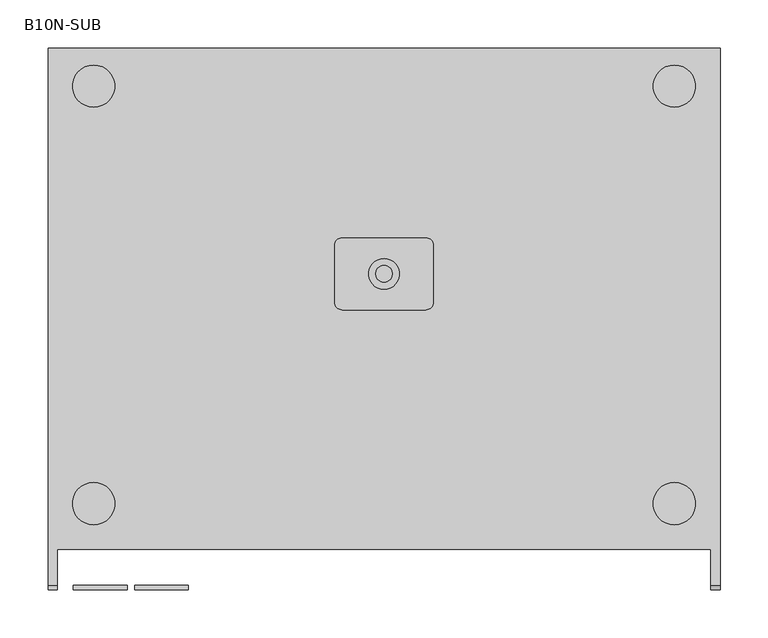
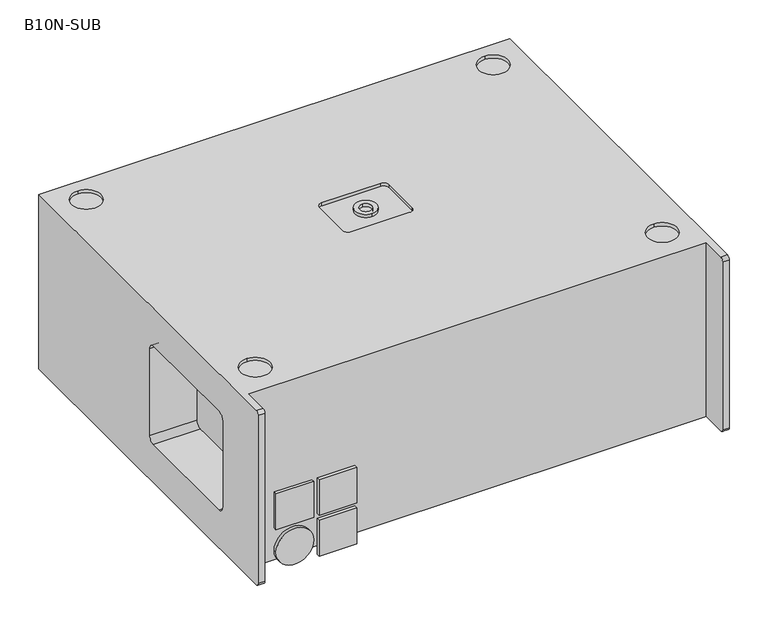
"""IFC4 building model written with IfcOpenShell, lengths in millimetres: proxy geometry, d&b B10N-SUB : B10N-SUB."""

from ifc_helpers import new_model, si_unit, point, frame, frame_2d, origin, origin_with_axes, place, context, project, spatial, polyline, circle_curve, trimmed, segment, composite_curve, outline, extrude, source, transform, mapped, element, save
from ifc_brep_helpers import plane_surface, cylinder_surface, revolved_surface, advanced_brep


def b10n_sub_f161659a(model_context):
    return source(origin(), model_context, "Body", "SolidModel", [
        advanced_brep(
        [(2852.5, 504.2505973, 279.0), (2152.5, 504.2505973, 279.0), (2152.5, -55.7494027, 279.0), (2162.3, -55.7494027, 279.0), (2162.3, -18.2494027, 279.0), (2842.7, -18.2494027, 279.0), (2842.7, -55.7494027, 279.0), (2852.5, -55.7494027, 279.0), (2459.0, 306.2505973, 279.0), (2546.0, 306.2505973, 279.0), (2554.0, 298.2505973, 279.0), (2554.0, 239.2505973, 279.0), (2546.0, 231.2505973, 279.0), (2459.0, 231.2505973, 279.0), (2451.0, 239.2505973, 279.0), (2451.0, 298.2505973, 279.0), (2200.0, 7.2505973, 279.0), (2200.0, 51.2505973, 279.0), (2200.0, 442.4754449, 279.0), (2200.0, 486.4754449, 279.0), (2805.0, 7.2505973, 279.0), (2805.0, 51.2505973, 279.0), (2805.0, 442.4754449, 279.0), (2805.0, 486.4754449, 279.0), (2782.5, 218.2505973, 210.25), (2782.5, 209.2505973, 219.25), (2782.5, 40.2505973, 219.25), (2782.5, 31.2505973, 210.25), (2782.5, 31.2505973, 73.75), (2782.5, 40.2505973, 64.75), (2782.5, 209.2505973, 64.75), (2782.5, 218.2505973, 73.75), (2222.5, 209.2505973, 219.25), (2222.5, 218.2505973, 210.25), (2222.5, 218.2505973, 73.75), (2222.5, 209.2505973, 64.75), (2222.5, 40.2505973, 64.75), (2222.5, 31.2505973, 73.75), (2222.5, 31.2505973, 210.25), (2222.5, 40.2505973, 219.25), (2152.5, 504.2505973, 5.0), (2152.5, -55.7494027, 5.0), (2152.5, -60.7494027, 10.0), (2152.5, -60.7494027, 274.0), (2152.5, 209.2505973, 219.25), (2152.5, 40.2505973, 219.25), (2152.5, 31.2505973, 210.25), (2152.5, 31.2505973, 73.75), (2152.5, 40.2505973, 64.75), (2152.5, 209.2505973, 64.75), (2152.5, 218.2505973, 73.75), (2152.5, 218.2505973, 210.25), (2162.3, -18.2494027, 5.0), (2842.7, -18.2494027, 5.0), (2162.3, -60.7494027, 10.0), (2162.3, -60.7494027, 274.0), (2725.8470134, 499.2505973, 191.7), (2725.8470134, 499.2505973, 92.3), (2715.3470134, 499.2505973, 81.8), (2672.3470134, 499.2505973, 81.8), (2661.8470134, 499.2505973, 92.3), (2661.8470134, 499.2505973, 191.7), (2672.3470134, 499.2505973, 202.2), (2715.3470134, 499.2505973, 202.2), (2162.3, -55.7494027, 5.0), (2852.5, 504.2505973, 5.0), (2852.5, -55.7494027, 5.0), (2842.7, -55.7494027, 5.0), (2652.6470134, 504.2505973, 190.6470095), (2640.6470134, 504.2505973, 202.6470095), (2521.653425, 504.2505973, 202.6470095), (2506.426988, 504.2505973, 192.1470095), (2426.573012, 504.2505973, 192.1470095), (2411.346575, 504.2505973, 202.6470095), (2292.3529944, 504.2505973, 202.6470095), (2280.3529944, 504.2505973, 190.6470095), (2280.3529944, 504.2505973, 93.3529905), (2292.3529944, 504.2505973, 81.3529905), (2411.346575, 504.2505973, 81.3529905), (2426.573012, 504.2505973, 91.8529905), (2506.426988, 504.2505973, 91.8529905), (2521.653425, 504.2505973, 81.3529905), (2640.6470134, 504.2505973, 81.3529905), (2652.6470134, 504.2505973, 93.3529905), (2725.8470134, 504.2505973, 92.3), (2725.8470134, 504.2505973, 191.7), (2715.3470134, 504.2505973, 202.2), (2672.3470134, 504.2505973, 202.2), (2661.8470134, 504.2505973, 191.7), (2661.8470134, 504.2505973, 92.3), (2672.3470134, 504.2505973, 81.8), (2715.3470134, 504.2505973, 81.8), (2546.0, 306.2505973, 274.0), (2459.0, 306.2505973, 274.0), (2451.0, 298.2505973, 274.0), (2451.0, 239.2505973, 274.0), (2459.0, 231.2505973, 274.0), (2546.0, 231.2505973, 274.0), (2554.0, 239.2505973, 274.0), (2554.0, 298.2505973, 274.0), (2200.0, 51.2505973, 274.0), (2200.0, 7.2505973, 274.0), (2200.0, 486.4754449, 274.0), (2200.0, 442.4754449, 274.0), (2842.7, -60.7494027, 10.0), (2842.7, -60.7494027, 274.0), (2852.5, -60.7494027, 274.0), (2852.5, -60.7494027, 10.0), (2852.5, 209.2505973, 219.25), (2852.5, 218.2505973, 210.25), (2852.5, 218.2505973, 73.75), (2852.5, 209.2505973, 64.75), (2852.5, 40.2505973, 64.75), (2852.5, 31.2505973, 73.75), (2852.5, 31.2505973, 210.25), (2852.5, 40.2505973, 219.25), (2805.0, 7.2505973, 274.0), (2805.0, 51.2505973, 274.0), (2805.0, 442.4754449, 274.0), (2805.0, 486.4754449, 274.0), (2290.3529944, 449.0471889, 185.5005283), (2342.6469289, 449.0471889, 185.5005283), (2342.6469289, 449.0471889, 98.5432161), (2290.3529944, 449.0471889, 98.5432161), (2290.3529944, 499.2505973, 185.5005283), (2360.4303168, 499.2505973, 185.5005283), (2360.4303168, 499.2505973, 98.5432161), (2290.3529944, 499.2505973, 98.5432161), (2640.6470134, 499.2505973, 202.6470095), (2652.6470134, 499.2505973, 190.6470095), (2652.6470134, 499.2505973, 93.3529905), (2640.6470134, 499.2505973, 81.3529905), (2521.653425, 499.2505973, 81.3529905), (2506.426988, 499.2505973, 91.8529905), (2426.573012, 499.2505973, 91.8529905), (2411.346575, 499.2505973, 81.3529905), (2292.3529944, 499.2505973, 81.3529905), (2280.3529944, 499.2505973, 93.3529905), (2280.3529944, 499.2505973, 190.6470095), (2292.3529944, 499.2505973, 202.6470095), (2411.346575, 499.2505973, 202.6470095), (2426.573012, 499.2505973, 192.1470095), (2506.426988, 499.2505973, 192.1470095), (2521.653425, 499.2505973, 202.6470095), (2641.4562346, 499.2505973, 185.5005283), (2544.51192, 499.2505973, 185.5005283), (2544.51192, 499.2505973, 98.5432161), (2641.4562346, 499.2505973, 98.5432161), (2629.5000039, 449.0471889, 185.5005283), (2629.5000039, 449.0471889, 98.5432161), (2565.212914, 449.0471889, 98.5432161), (2565.212914, 449.0471889, 185.5005283)],
        [
            (0, 1),
            (1, 2),
            (2, 3),
            (3, 4),
            (4, 5),
            (5, 6),
            (6, 7),
            (7, 0),
            (8, 9),
            (9, 10, circle_curve(frame((2546.0, 298.2505973, 279.0), z_axis=(0.0, 0.0, -1.0), x_axis=(0.0, 1.0, 0.0)), 8.0)),
            (10, 11),
            (11, 12, circle_curve(frame((2546.0, 239.2505973, 279.0), z_axis=(0.0, 0.0, -1.0), x_axis=(0.0, 1.0, 0.0)), 8.0)),
            (12, 13),
            (13, 14, circle_curve(frame((2459.0, 239.2505973, 279.0), z_axis=(0.0, 0.0, -1.0), x_axis=(0.0, 1.0, 0.0)), 8.0)),
            (14, 15),
            (15, 8, circle_curve(frame((2459.0, 298.2505973, 279.0), z_axis=(0.0, 0.0, -1.0), x_axis=(0.0, 1.0, 0.0)), 8.0)),
            (16, 17, circle_curve(frame((2200.0, 29.2505973, 279.0), z_axis=(0.0, 0.0, -1.0), x_axis=(0.0, 1.0, 0.0)), 22.0)),
            (17, 16, circle_curve(frame((2200.0, 29.2505973, 279.0), z_axis=(0.0, 0.0, -1.0), x_axis=(0.0, 1.0, 0.0)), 22.0)),
            (18, 19, circle_curve(frame((2200.0, 464.4754449, 279.0), z_axis=(0.0, 0.0, -1.0), x_axis=(0.0, 1.0, 0.0)), 22.0)),
            (19, 18, circle_curve(frame((2200.0, 464.4754449, 279.0), z_axis=(0.0, 0.0, -1.0), x_axis=(0.0, 1.0, 0.0)), 22.0)),
            (20, 21, circle_curve(frame((2805.0, 29.2505973, 279.0), z_axis=(0.0, 0.0, -1.0), x_axis=(0.0, 1.0, 0.0)), 22.0)),
            (21, 20, circle_curve(frame((2805.0, 29.2505973, 279.0), z_axis=(0.0, 0.0, -1.0), x_axis=(0.0, 1.0, 0.0)), 22.0)),
            (22, 23, circle_curve(frame((2805.0, 464.4754449, 279.0), z_axis=(0.0, 0.0, -1.0), x_axis=(0.0, 1.0, 0.0)), 22.0)),
            (23, 22, circle_curve(frame((2805.0, 464.4754449, 279.0), z_axis=(0.0, 0.0, -1.0), x_axis=(0.0, 1.0, 0.0)), 22.0)),
            (24, 25, circle_curve(frame((2782.5, 209.2505973, 210.25), z_axis=(1.0, 0.0, 0.0), x_axis=(0.0, 0.0, 1.0)), 9.0)),
            (25, 26),
            (26, 27, circle_curve(frame((2782.5, 40.2505973, 210.25), z_axis=(1.0, 0.0, 0.0), x_axis=(0.0, 0.0, 1.0)), 9.0)),
            (27, 28),
            (28, 29, circle_curve(frame((2782.5, 40.2505973, 73.75), z_axis=(1.0, 0.0, 0.0), x_axis=(0.0, 0.0, 1.0)), 9.0)),
            (29, 30),
            (30, 31, circle_curve(frame((2782.5, 209.2505973, 73.75), z_axis=(1.0, 0.0, 0.0), x_axis=(0.0, 0.0, 1.0)), 9.0)),
            (31, 24),
            (32, 33, circle_curve(frame((2222.5, 209.2505973, 210.25), z_axis=(-1.0, 0.0, 0.0), x_axis=(0.0, 0.0, 1.0)), 9.0)),
            (33, 34),
            (34, 35, circle_curve(frame((2222.5, 209.2505973, 73.75), z_axis=(-1.0, 0.0, 0.0), x_axis=(0.0, 0.0, 1.0)), 9.0)),
            (35, 36),
            (36, 37, circle_curve(frame((2222.5, 40.2505973, 73.75), z_axis=(-1.0, 0.0, 0.0), x_axis=(0.0, 0.0, 1.0)), 9.0)),
            (37, 38),
            (38, 39, circle_curve(frame((2222.5, 40.2505973, 210.25), z_axis=(-1.0, 0.0, 0.0), x_axis=(0.0, 0.0, 1.0)), 9.0)),
            (39, 32),
            (1, 40),
            (40, 41),
            (41, 42, circle_curve(frame((2152.5, -55.7494027, 10.0), z_axis=(-1.0, 0.0, 0.0), x_axis=(0.0, 0.0, 1.0)), 5.0)),
            (42, 43),
            (43, 2, circle_curve(frame((2152.5, -55.7494027, 274.0), z_axis=(-1.0, 0.0, 0.0), x_axis=(0.0, 0.0, 1.0)), 5.0)),
            (44, 45),
            (45, 46, circle_curve(frame((2152.5, 40.2505973, 210.25), z_axis=(1.0, 0.0, 0.0), x_axis=(0.0, 0.0, 1.0)), 9.0)),
            (46, 47),
            (47, 48, circle_curve(frame((2152.5, 40.2505973, 73.75), z_axis=(1.0, 0.0, 0.0), x_axis=(0.0, 0.0, 1.0)), 9.0)),
            (48, 49),
            (49, 50, circle_curve(frame((2152.5, 209.2505973, 73.75), z_axis=(1.0, 0.0, 0.0), x_axis=(0.0, 0.0, 1.0)), 9.0)),
            (50, 51),
            (51, 44, circle_curve(frame((2152.5, 209.2505973, 210.25), z_axis=(1.0, 0.0, 0.0), x_axis=(0.0, 0.0, 1.0)), 9.0)),
            (4, 52),
            (52, 53),
            (53, 5),
            (51, 33),
            (32, 44),
            (50, 34),
            (49, 35),
            (48, 36),
            (47, 37),
            (46, 38),
            (45, 39),
            (42, 54),
            (54, 55),
            (55, 43),
            (56, 57),
            (57, 58, circle_curve(frame((2715.3470134, 499.2505973, 92.3), z_axis=(0.0, 1.0, 0.0), x_axis=(-1.0, 0.0, 0.0)), 10.5)),
            (58, 59),
            (59, 60, circle_curve(frame((2672.3470134, 499.2505973, 92.3), z_axis=(0.0, 1.0, 0.0), x_axis=(-1.0, 0.0, 0.0)), 10.5)),
            (60, 61),
            (61, 62, circle_curve(frame((2672.3470134, 499.2505973, 191.7), z_axis=(0.0, 1.0, 0.0), x_axis=(-1.0, 0.0, 0.0)), 10.5)),
            (62, 63),
            (63, 56, circle_curve(frame((2715.3470134, 499.2505973, 191.7), z_axis=(0.0, 1.0, 0.0), x_axis=(-1.0, 0.0, 0.0)), 10.5)),
            (52, 64),
            (64, 41),
            (40, 65),
            (65, 66),
            (66, 67),
            (67, 53),
            (0, 65),
            (68, 69, circle_curve(frame((2640.6470134, 504.2505973, 190.6470095), z_axis=(0.0, -1.0, 0.0), x_axis=(-1.0, 0.0, 0.0)), 12.0)),
            (69, 70),
            (70, 71),
            (71, 72),
            (72, 73),
            (73, 74),
            (74, 75, circle_curve(frame((2292.3529944, 504.2505973, 190.6470095), z_axis=(0.0, -1.0, 0.0), x_axis=(-1.0, 0.0, 0.0)), 12.0)),
            (75, 76),
            (76, 77, circle_curve(frame((2292.3529944, 504.2505973, 93.3529905), z_axis=(0.0, -1.0, 0.0), x_axis=(-1.0, 0.0, 0.0)), 12.0)),
            (77, 78),
            (78, 79),
            (79, 80),
            (80, 81),
            (81, 82),
            (82, 83, circle_curve(frame((2640.6470134, 504.2505973, 93.3529905), z_axis=(0.0, -1.0, 0.0), x_axis=(-1.0, 0.0, 0.0)), 12.0)),
            (83, 68),
            (84, 85),
            (85, 86, circle_curve(frame((2715.3470134, 504.2505973, 191.7), z_axis=(0.0, -1.0, 0.0), x_axis=(-1.0, 0.0, 0.0)), 10.5)),
            (86, 87),
            (87, 88, circle_curve(frame((2672.3470134, 504.2505973, 191.7), z_axis=(0.0, -1.0, 0.0), x_axis=(-1.0, 0.0, 0.0)), 10.5)),
            (88, 89),
            (89, 90, circle_curve(frame((2672.3470134, 504.2505973, 92.3), z_axis=(0.0, -1.0, 0.0), x_axis=(-1.0, 0.0, 0.0)), 10.5)),
            (90, 91),
            (91, 84, circle_curve(frame((2715.3470134, 504.2505973, 92.3), z_axis=(0.0, -1.0, 0.0), x_axis=(-1.0, 0.0, 0.0)), 10.5)),
            (92, 93),
            (93, 94, circle_curve(frame((2459.0, 298.2505973, 274.0), z_axis=(0.0, 0.0, 1.0), x_axis=(0.0, 1.0, 0.0)), 8.0)),
            (94, 95),
            (95, 96, circle_curve(frame((2459.0, 239.2505973, 274.0), z_axis=(0.0, 0.0, 1.0), x_axis=(0.0, 1.0, 0.0)), 8.0)),
            (96, 97),
            (97, 98, circle_curve(frame((2546.0, 239.2505973, 274.0), z_axis=(0.0, 0.0, 1.0), x_axis=(0.0, 1.0, 0.0)), 8.0)),
            (98, 99),
            (99, 92, circle_curve(frame((2546.0, 298.2505973, 274.0), z_axis=(0.0, 0.0, 1.0), x_axis=(0.0, 1.0, 0.0)), 8.0)),
            (100, 101, circle_curve(frame((2200.0, 29.2505973, 274.0), z_axis=(0.0, 0.0, 1.0), x_axis=(0.0, 1.0, 0.0)), 22.0)),
            (101, 100, circle_curve(frame((2200.0, 29.2505973, 274.0), z_axis=(0.0, 0.0, 1.0), x_axis=(0.0, 1.0, 0.0)), 22.0)),
            (102, 103, circle_curve(frame((2200.0, 464.4754449, 274.0), z_axis=(0.0, 0.0, 1.0), x_axis=(0.0, 1.0, 0.0)), 22.0)),
            (103, 102, circle_curve(frame((2200.0, 464.4754449, 274.0), z_axis=(0.0, 0.0, 1.0), x_axis=(0.0, 1.0, 0.0)), 22.0)),
            (8, 93),
            (92, 9),
            (99, 10),
            (98, 11),
            (97, 12),
            (96, 13),
            (95, 14),
            (94, 15),
            (16, 101),
            (100, 17),
            (18, 103),
            (102, 19),
            (3, 55, circle_curve(frame((2162.3, -55.7494027, 274.0), z_axis=(1.0, 0.0, 0.0), x_axis=(0.0, 0.0, 1.0)), 5.0)),
            (54, 64, circle_curve(frame((2162.3, -55.7494027, 10.0), z_axis=(1.0, 0.0, 0.0), x_axis=(0.0, 0.0, 1.0)), 5.0)),
            (67, 104, circle_curve(frame((2842.7, -55.7494027, 10.0), z_axis=(-1.0, 0.0, 0.0), x_axis=(0.0, 0.0, 1.0)), 5.0)),
            (104, 105),
            (105, 6, circle_curve(frame((2842.7, -55.7494027, 274.0), z_axis=(-1.0, 0.0, 0.0), x_axis=(0.0, 0.0, 1.0)), 5.0)),
            (7, 106, circle_curve(frame((2852.5, -55.7494027, 274.0), z_axis=(1.0, 0.0, 0.0), x_axis=(0.0, 0.0, 1.0)), 5.0)),
            (106, 107),
            (107, 66, circle_curve(frame((2852.5, -55.7494027, 10.0), z_axis=(1.0, 0.0, 0.0), x_axis=(0.0, 0.0, 1.0)), 5.0)),
            (108, 109, circle_curve(frame((2852.5, 209.2505973, 210.25), z_axis=(-1.0, 0.0, 0.0), x_axis=(0.0, 0.0, 1.0)), 9.0)),
            (109, 110),
            (110, 111, circle_curve(frame((2852.5, 209.2505973, 73.75), z_axis=(-1.0, 0.0, 0.0), x_axis=(0.0, 0.0, 1.0)), 9.0)),
            (111, 112),
            (112, 113, circle_curve(frame((2852.5, 40.2505973, 73.75), z_axis=(-1.0, 0.0, 0.0), x_axis=(0.0, 0.0, 1.0)), 9.0)),
            (113, 114),
            (114, 115, circle_curve(frame((2852.5, 40.2505973, 210.25), z_axis=(-1.0, 0.0, 0.0), x_axis=(0.0, 0.0, 1.0)), 9.0)),
            (115, 108),
            (20, 116),
            (116, 117, circle_curve(frame((2805.0, 29.2505973, 274.0), z_axis=(0.0, 0.0, -1.0), x_axis=(0.0, 1.0, 0.0)), 22.0)),
            (117, 21),
            (117, 116, circle_curve(frame((2805.0, 29.2505973, 274.0), z_axis=(0.0, 0.0, -1.0), x_axis=(0.0, 1.0, 0.0)), 22.0)),
            (22, 118),
            (118, 119, circle_curve(frame((2805.0, 464.4754449, 274.0), z_axis=(0.0, 0.0, -1.0), x_axis=(0.0, 1.0, 0.0)), 22.0)),
            (119, 23),
            (119, 118, circle_curve(frame((2805.0, 464.4754449, 274.0), z_axis=(0.0, 0.0, -1.0), x_axis=(0.0, 1.0, 0.0)), 22.0)),
            (106, 105),
            (104, 107),
            (108, 25),
            (24, 109),
            (31, 110),
            (30, 111),
            (29, 112),
            (28, 113),
            (27, 114),
            (26, 115),
            (120, 121),
            (121, 122),
            (122, 123),
            (123, 120),
            (120, 124),
            (124, 125),
            (125, 121),
            (125, 126),
            (126, 122),
            (126, 127),
            (127, 123),
            (127, 124),
            (128, 129, circle_curve(frame((2640.6470134, 499.2505973, 190.6470095), z_axis=(0.0, 1.0, 0.0), x_axis=(-1.0, 0.0, 0.0)), 12.0)),
            (129, 130),
            (130, 131, circle_curve(frame((2640.6470134, 499.2505973, 93.3529905), z_axis=(0.0, 1.0, 0.0), x_axis=(-1.0, 0.0, 0.0)), 12.0)),
            (131, 132),
            (132, 133),
            (133, 134),
            (134, 135),
            (135, 136),
            (136, 137, circle_curve(frame((2292.3529944, 499.2505973, 93.3529905), z_axis=(0.0, 1.0, 0.0), x_axis=(-1.0, 0.0, 0.0)), 12.0)),
            (137, 138),
            (138, 139, circle_curve(frame((2292.3529944, 499.2505973, 190.6470095), z_axis=(0.0, 1.0, 0.0), x_axis=(-1.0, 0.0, 0.0)), 12.0)),
            (139, 140),
            (140, 141),
            (141, 142),
            (142, 143),
            (143, 128),
            (144, 145),
            (145, 146),
            (146, 147),
            (147, 144),
            (128, 69),
            (68, 129),
            (83, 130),
            (82, 131),
            (81, 132),
            (80, 133),
            (79, 134),
            (78, 135),
            (77, 136),
            (76, 137),
            (75, 138),
            (74, 139),
            (73, 140),
            (72, 141),
            (71, 142),
            (70, 143),
            (148, 149),
            (149, 150),
            (150, 151),
            (151, 148),
            (151, 145),
            (144, 148),
            (150, 146),
            (149, 147),
            (56, 85),
            (84, 57),
            (91, 58),
            (90, 59),
            (89, 60),
            (88, 61),
            (87, 62),
            (86, 63),
        ],
        [
            plane_surface(frame((2152.5, 504.2505973, 279.0), z_axis=(0.0, 0.0, 1.0), x_axis=(-1.0, 0.0, 0.0))),
            plane_surface(frame((2782.5, -18.2494027, 274.0), z_axis=(1.0, 0.0, 0.0), x_axis=(0.0, 0.0, -1.0))),
            plane_surface(frame((2222.5, 504.2505973, 274.0), z_axis=(-1.0, 0.0, 0.0), x_axis=(0.0, 0.0, -1.0))),
            plane_surface(frame((2152.5, -18.2494027, 5.0), z_axis=(-1.0, 0.0, 0.0), x_axis=(0.0, 0.0, 1.0))),
            plane_surface(frame((2222.5, -18.2494027, 274.0), z_axis=(0.0, -1.0, 0.0), x_axis=(-1.0, 0.0, 0.0))),
            revolved_surface(polyline([(2152.5, 209.2505973, 219.25), (2222.5, 209.2505973, 219.25)]), (2152.5, 209.2505973, 210.25), (-1.0, 0.0, 0.0)),
            plane_surface(frame((2222.5, 218.2505973, 210.25), z_axis=(0.0, -1.0, 0.0), x_axis=(-1.0, 0.0, 0.0))),
            revolved_surface(polyline([(2152.5, 209.2505973, 82.75), (2222.5, 209.2505973, 82.75)]), (2152.5, 209.2505973, 73.75), (-1.0, 0.0, 0.0)),
            plane_surface(frame((2222.5, 209.2505973, 64.75), z_axis=(0.0, 0.0, 1.0), x_axis=(-1.0, 0.0, 0.0))),
            revolved_surface(polyline([(2152.5, 40.2505973, 82.75), (2222.5, 40.2505973, 82.75)]), (2152.5, 40.2505973, 73.75), (-1.0, 0.0, 0.0)),
            plane_surface(frame((2222.5, 31.2505973, 73.75), z_axis=(0.0, 1.0, 0.0), x_axis=(-1.0, 0.0, 0.0))),
            revolved_surface(polyline([(2152.5, 40.2505973, 219.25), (2222.5, 40.2505973, 219.25)]), (2152.5, 40.2505973, 210.25), (-1.0, 0.0, 0.0)),
            plane_surface(frame((2222.5, 40.2505973, 219.25), z_axis=(0.0, 0.0, -1.0), x_axis=(-1.0, 0.0, 0.0))),
            plane_surface(frame((2162.3, -60.7494027, 274.0), z_axis=(0.0, -1.0, 0.0), x_axis=(-1.0, 0.0, 0.0))),
            plane_surface(frame((2725.8470134, 499.2505973, 191.7), z_axis=(0.0, 1.0, 0.0), x_axis=(0.0, 0.0, 1.0))),
            plane_surface(frame((2222.5, -18.2494027, 5.0), z_axis=(0.0, 0.0, -1.0), x_axis=(-1.0, 0.0, 0.0))),
            plane_surface(frame((2222.5, 504.2505973, 5.0), z_axis=(0.0, 1.0, 0.0), x_axis=(-1.0, 0.0, 0.0))),
            plane_surface(frame((2222.5, 504.2505973, 274.0), z_axis=(0.0, 0.0, 1.0), x_axis=(-1.0, 0.0, 0.0))),
            plane_surface(frame((2459.0, 306.2505973, 279.0), z_axis=(0.0, -1.0, 0.0), x_axis=(0.0, 0.0, -1.0))),
            revolved_surface(polyline([(2546.0, 306.2505973, 274.0), (2546.0, 306.2505973, 279.0)]), (2546.0, 298.2505973, 279.0), (0.0, 0.0, -1.0)),
            plane_surface(frame((2554.0, 298.2505973, 279.0), z_axis=(-1.0, 0.0, 0.0), x_axis=(0.0, 0.0, -1.0))),
            revolved_surface(polyline([(2546.0, 247.2505973, 274.0), (2546.0, 247.2505973, 279.0)]), (2546.0, 239.2505973, 279.0), (0.0, 0.0, -1.0)),
            plane_surface(frame((2546.0, 231.2505973, 279.0), z_axis=(0.0, 1.0, 0.0), x_axis=(0.0, 0.0, -1.0))),
            revolved_surface(polyline([(2459.0, 247.2505973, 274.0), (2459.0, 247.2505973, 279.0)]), (2459.0, 239.2505973, 279.0), (0.0, 0.0, -1.0)),
            plane_surface(frame((2451.0, 239.2505973, 279.0), z_axis=(1.0, 0.0, 0.0), x_axis=(0.0, 0.0, -1.0))),
            revolved_surface(polyline([(2459.0, 306.2505973, 274.0), (2459.0, 306.2505973, 279.0)]), (2459.0, 298.2505973, 279.0), (0.0, 0.0, -1.0)),
            revolved_surface(polyline([(2200.0, 51.250597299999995, 274.0), (2200.0, 51.250597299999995, 279.0)]), (2200.0, 29.2505973, 279.0), (0.0, 0.0, -1.0)),
            revolved_surface(polyline([(2200.0, 486.4754449, 274.0), (2200.0, 486.4754449, 279.0)]), (2200.0, 464.4754449, 279.0), (0.0, 0.0, -1.0)),
            plane_surface(frame((2162.3, -55.7494027, 279.0), z_axis=(1.0, 0.0, 0.0), x_axis=(0.0, 0.0, -1.0))),
            plane_surface(frame((2842.7, -18.2494027, 279.0), z_axis=(-1.0, 0.0, 0.0), x_axis=(0.0, 0.0, -1.0))),
            plane_surface(frame((2852.5, -55.7494027, 279.0), z_axis=(1.0, 0.0, 0.0), x_axis=(0.0, 0.0, -1.0))),
            revolved_surface(polyline([(2805.0, 51.250597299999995, 274.0), (2805.0, 51.250597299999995, 279.0)]), (2805.0, 29.2505973, 279.0), (0.0, 0.0, -1.0)),
            revolved_surface(polyline([(2805.0, 486.4754449, 274.0), (2805.0, 486.4754449, 279.0)]), (2805.0, 464.4754449, 279.0), (0.0, 0.0, -1.0)),
            cylinder_surface(frame((2152.5, -55.7494027, 274.0), z_axis=(1.0, 0.0, 0.0), x_axis=(0.0, 0.0, 1.0)), 5.0),
            cylinder_surface(frame((2152.5, -55.7494027, 10.0), z_axis=(1.0, 0.0, 0.0), x_axis=(0.0, 0.0, 1.0)), 5.0),
            plane_surface(frame((2842.7, -60.7494027, 10.0), z_axis=(0.0, -1.0, 0.0), x_axis=(1.0, 0.0, 0.0))),
            cylinder_surface(frame((2852.5, -55.7494027, 274.0), z_axis=(-1.0, 0.0, 0.0), x_axis=(0.0, 0.0, 1.0)), 5.0),
            cylinder_surface(frame((2852.5, -55.7494027, 10.0), z_axis=(-1.0, 0.0, 0.0), x_axis=(0.0, 0.0, 1.0)), 5.0),
            plane_surface(frame((2782.5, -18.2494027, 274.0), z_axis=(0.0, 0.0, 1.0), x_axis=(1.0, 0.0, 0.0))),
            revolved_surface(polyline([(2852.5, 209.2505973, 219.25), (2782.5, 209.2505973, 219.25)]), (2852.5, 209.2505973, 210.25), (1.0, 0.0, 0.0)),
            plane_surface(frame((2782.5, 218.2505973, 73.75), z_axis=(0.0, -1.0, 0.0), x_axis=(1.0, 0.0, 0.0))),
            revolved_surface(polyline([(2852.5, 209.2505973, 82.75), (2782.5, 209.2505973, 82.75)]), (2852.5, 209.2505973, 73.75), (1.0, 0.0, 0.0)),
            plane_surface(frame((2782.5, 40.2505973, 64.75), z_axis=(0.0, 0.0, 1.0), x_axis=(1.0, 0.0, 0.0))),
            revolved_surface(polyline([(2852.5, 40.2505973, 82.75), (2782.5, 40.2505973, 82.75)]), (2852.5, 40.2505973, 73.75), (1.0, 0.0, 0.0)),
            plane_surface(frame((2782.5, 31.2505973, 210.25), z_axis=(0.0, 1.0, 0.0), x_axis=(1.0, 0.0, 0.0))),
            revolved_surface(polyline([(2852.5, 40.2505973, 219.25), (2782.5, 40.2505973, 219.25)]), (2852.5, 40.2505973, 210.25), (1.0, 0.0, 0.0)),
            plane_surface(frame((2782.5, 209.2505973, 219.25), z_axis=(0.0, 0.0, -1.0), x_axis=(1.0, 0.0, 0.0))),
            plane_surface(frame((2316.4999617, 449.0471889, 142.0218722), z_axis=(0.0, 1.0, 0.0), x_axis=(1.0, 0.0, 0.0))),
            plane_surface(frame((2326.2772223, 504.2505973, 185.5005283), z_axis=(0.0, 0.0, -1.0), x_axis=(-1.0, 0.0, 0.0))),
            plane_surface(frame((2362.2014503, 504.2505973, 142.0218722), z_axis=(-0.9426094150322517, 0.3338974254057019, 0.0), x_axis=(0.0, 0.0, 1.0))),
            plane_surface(frame((2326.2772223, 504.2505973, 98.5432161), z_axis=(0.0, 0.0, 1.0), x_axis=(1.0, 0.0, 0.0))),
            plane_surface(frame((2290.3529944, 504.2505973, 142.0218722), z_axis=(1.0, 0.0, 0.0), x_axis=(0.0, 0.0, -1.0))),
            plane_surface(frame((2628.6470134, 499.2505973, 190.6470095), z_axis=(0.0, 1.0, 0.0), x_axis=(0.0, 0.0, -1.0))),
            revolved_surface(polyline([(2628.6470134, 504.2505973, 190.6470095), (2628.6470134, 499.2505973, 190.6470095)]), (2640.6470134, 499.2505973, 190.6470095), (0.0, 1.0, 0.0)),
            plane_surface(frame((2652.6470134, 504.2505973, 190.6470095), z_axis=(-1.0, 0.0, 0.0), x_axis=(0.0, -1.0, 0.0))),
            revolved_surface(polyline([(2628.6470134, 504.2505973, 93.3529905), (2628.6470134, 499.2505973, 93.3529905)]), (2640.6470134, 499.2505973, 93.3529905), (0.0, 1.0, 0.0)),
            plane_surface(frame((2640.6470134, 504.2505973, 81.3529905), z_axis=(0.0, 0.0, 1.0), x_axis=(0.0, -1.0, 0.0))),
            plane_surface(frame((2521.653425, 504.2505973, 81.3529905), z_axis=(0.5676966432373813, 0.0, 0.82323782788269), x_axis=(0.0, -1.0, 0.0))),
            plane_surface(frame((2506.426988, 504.2505973, 91.8529905), z_axis=(0.0, 0.0, 1.0), x_axis=(0.0, -1.0, 0.0))),
            plane_surface(frame((2426.573012, 504.2505973, 91.8529905), z_axis=(-0.567696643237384, 0.0, 0.8232378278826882), x_axis=(0.0, -1.0, 0.0))),
            plane_surface(frame((2411.346575, 504.2505973, 81.3529905), z_axis=(0.0, 0.0, 1.0), x_axis=(0.0, -1.0, 0.0))),
            revolved_surface(polyline([(2280.3529944, 504.2505973, 93.3529905), (2280.3529944, 499.2505973, 93.3529905)]), (2292.3529944, 499.2505973, 93.3529905), (0.0, 1.0, 0.0)),
            plane_surface(frame((2280.3529944, 504.2505973, 93.3529905), z_axis=(1.0, 0.0, 0.0), x_axis=(0.0, -1.0, 0.0))),
            revolved_surface(polyline([(2280.3529944, 504.2505973, 190.6470095), (2280.3529944, 499.2505973, 190.6470095)]), (2292.3529944, 499.2505973, 190.6470095), (0.0, 1.0, 0.0)),
            plane_surface(frame((2292.3529944, 504.2505973, 202.6470095), z_axis=(0.0, 0.0, -1.0), x_axis=(0.0, -1.0, 0.0))),
            plane_surface(frame((2411.346575, 504.2505973, 202.6470095), z_axis=(-0.5676966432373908, 0.0, -0.8232378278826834), x_axis=(0.0, -1.0, 0.0))),
            plane_surface(frame((2426.573012, 504.2505973, 192.1470095), z_axis=(0.0, 0.0, -1.0), x_axis=(0.0, -1.0, 0.0))),
            plane_surface(frame((2506.426988, 504.2505973, 192.1470095), z_axis=(0.567696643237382, 0.0, -0.8232378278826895), x_axis=(0.0, -1.0, 0.0))),
            plane_surface(frame((2521.653425, 504.2505973, 202.6470095), z_axis=(0.0, 0.0, -1.0), x_axis=(0.0, -1.0, 0.0))),
            plane_surface(frame((2597.3564589, 449.0471889, 142.0218722), z_axis=(0.0, 1.0, 0.0), x_axis=(0.0, 0.0, -1.0))),
            plane_surface(frame((2592.5486107, 504.2505973, 185.5005283), z_axis=(0.0, 0.0, -1.0), x_axis=(-1.0, 0.0, 0.0))),
            plane_surface(frame((2542.450208, 504.2505973, 142.0218722), z_axis=(0.9244899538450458, 0.38120640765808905, 0.0), x_axis=(0.0, 0.0, -1.0))),
            plane_surface(frame((2592.5486107, 504.2505973, 98.5432161), z_axis=(0.0, 0.0, 1.0), x_axis=(1.0, 0.0, 0.0))),
            plane_surface(frame((2642.6470134, 504.2505973, 142.0218722), z_axis=(-0.9727929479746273, 0.23167624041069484, 0.0), x_axis=(0.0, 0.0, 1.0))),
            plane_surface(frame((2725.8470134, 504.2505973, 191.7), z_axis=(-1.0, 0.0, 0.0), x_axis=(0.0, -1.0, 0.0))),
            revolved_surface(polyline([(2704.8470134, 504.2505973, 92.3), (2704.8470134, 499.2505973, 92.3)]), (2715.3470134, 499.2505973, 92.3), (0.0, 1.0, 0.0)),
            plane_surface(frame((2715.3470134, 504.2505973, 81.8), z_axis=(0.0, 0.0, 1.0), x_axis=(0.0, -1.0, 0.0))),
            revolved_surface(polyline([(2661.8470134, 504.2505973, 92.3), (2661.8470134, 499.2505973, 92.3)]), (2672.3470134, 499.2505973, 92.3), (0.0, 1.0, 0.0)),
            plane_surface(frame((2661.8470134, 504.2505973, 92.3), z_axis=(1.0, 0.0, 0.0), x_axis=(0.0, -1.0, 0.0))),
            revolved_surface(polyline([(2661.8470134, 504.2505973, 191.7), (2661.8470134, 499.2505973, 191.7)]), (2672.3470134, 499.2505973, 191.7), (0.0, 1.0, 0.0)),
            plane_surface(frame((2672.3470134, 504.2505973, 202.2), z_axis=(0.0, 0.0, -1.0), x_axis=(0.0, -1.0, 0.0))),
            revolved_surface(polyline([(2704.8470134, 504.2505973, 191.7), (2704.8470134, 499.2505973, 191.7)]), (2715.3470134, 499.2505973, 191.7), (0.0, 1.0, 0.0)),
        ],
        [
            (0, [[1, 2, 3, 4, 5, 6, 7, 8], [9, 10, 11, 12, 13, 14, 15, 16], [17, 18], [19, 20], [21, 22], [23, 24]]),
            (1, [[25, 26, 27, 28, 29, 30, 31, 32]]),
            (2, [[33, 34, 35, 36, 37, 38, 39, 40]]),
            (3, [[-2, 41, 42, 43, 44, 45], [46, 47, 48, 49, 50, 51, 52, 53]]),
            (4, [[-5, 54, 55, 56]]),
            (5, [[-53, 57, -33, 58]]),
            (6, [[-52, 59, -34, -57]]),
            (7, [[-51, 60, -35, -59]]),
            (8, [[-50, 61, -36, -60]]),
            (9, [[-49, 62, -37, -61]]),
            (10, [[-48, 63, -38, -62]]),
            (11, [[-47, 64, -39, -63]]),
            (12, [[-46, -58, -40, -64]]),
            (13, [[-44, 65, 66, 67]]),
            (14, [[68, 69, 70, 71, 72, 73, 74, 75]]),
            (15, [[76, 77, -42, 78, 79, 80, 81, -55]]),
            (16, [[-1, 82, -78, -41], [83, 84, 85, 86, 87, 88, 89, 90, 91, 92, 93, 94, 95, 96, 97, 98], [99, 100, 101, 102, 103, 104, 105, 106]]),
            (17, [[107, 108, 109, 110, 111, 112, 113, 114]]),
            (17, [[115, 116]]),
            (17, [[117, 118]]),
            (18, [[-9, 119, -107, 120]]),
            (19, [[-10, -120, -114, 121]]),
            (20, [[-11, -121, -113, 122]]),
            (21, [[-12, -122, -112, 123]]),
            (22, [[-13, -123, -111, 124]]),
            (23, [[-14, -124, -110, 125]]),
            (24, [[-15, -125, -109, 126]]),
            (25, [[-16, -126, -108, -119]]),
            (26, [[-17, 127, -115, 128]]),
            (26, [[-18, -128, -116, -127]]),
            (27, [[-19, 129, -117, 130]]),
            (27, [[-20, -130, -118, -129]]),
            (28, [[-4, 131, -66, 132, -76, -54]]),
            (29, [[-6, -56, -81, 133, 134, 135]]),
            (30, [[-8, 136, 137, 138, -79, -82], [139, 140, 141, 142, 143, 144, 145, 146]]),
            (31, [[-21, 147, 148, 149]]),
            (31, [[-22, -149, 150, -147]]),
            (32, [[-23, 151, 152, 153]]),
            (32, [[-24, -153, 154, -151]]),
            (33, [[-45, -67, -131, -3]]),
            (34, [[-43, -77, -132, -65]]),
            (35, [[-137, 155, -134, 156]]),
            (36, [[-136, -7, -135, -155]]),
            (37, [[-138, -156, -133, -80]]),
            (38, [[-148, -150]]),
            (38, [[-152, -154]]),
            (39, [[-139, 157, -25, 158]]),
            (40, [[-140, -158, -32, 159]]),
            (41, [[-141, -159, -31, 160]]),
            (42, [[-142, -160, -30, 161]]),
            (43, [[-143, -161, -29, 162]]),
            (44, [[-144, -162, -28, 163]]),
            (45, [[-145, -163, -27, 164]]),
            (46, [[-146, -164, -26, -157]]),
            (47, [[165, 166, 167, 168]]),
            (48, [[-165, 169, 170, 171]]),
            (49, [[-166, -171, 172, 173]]),
            (50, [[-167, -173, 174, 175]]),
            (51, [[-168, -175, 176, -169]]),
            (52, [[177, 178, 179, 180, 181, 182, 183, 184, 185, 186, 187, 188, 189, 190, 191, 192], [-170, -176, -174, -172], [193, 194, 195, 196]]),
            (53, [[-177, 197, -83, 198]]),
            (54, [[-178, -198, -98, 199]]),
            (55, [[-179, -199, -97, 200]]),
            (56, [[-180, -200, -96, 201]]),
            (57, [[-181, -201, -95, 202]]),
            (58, [[-182, -202, -94, 203]]),
            (59, [[-183, -203, -93, 204]]),
            (60, [[-184, -204, -92, 205]]),
            (61, [[-185, -205, -91, 206]]),
            (62, [[-186, -206, -90, 207]]),
            (63, [[-187, -207, -89, 208]]),
            (64, [[-188, -208, -88, 209]]),
            (65, [[-189, -209, -87, 210]]),
            (66, [[-190, -210, -86, 211]]),
            (67, [[-191, -211, -85, 212]]),
            (68, [[-192, -212, -84, -197]]),
            (69, [[213, 214, 215, 216]]),
            (70, [[-216, 217, -193, 218]]),
            (71, [[-215, 219, -194, -217]]),
            (72, [[-214, 220, -195, -219]]),
            (73, [[-213, -218, -196, -220]]),
            (74, [[-68, 221, -99, 222]]),
            (75, [[-69, -222, -106, 223]]),
            (76, [[-70, -223, -105, 224]]),
            (77, [[-71, -224, -104, 225]]),
            (78, [[-72, -225, -103, 226]]),
            (79, [[-73, -226, -102, 227]]),
            (80, [[-74, -227, -101, 228]]),
            (81, [[-75, -228, -100, -221]]),
        ],
    ),
        extrude(outline(composite_curve([segment(trimmed(circle_curve(frame_2d((2200.0, 464.4754449)), 22.0), [point((2222.0, 464.4754449))], [point((2178.0, 464.4754449))], False, "CARTESIAN"), True, "CONTINUOUS"), segment(trimmed(circle_curve(frame_2d((2200.0, 464.4754449)), 22.0), [point((2178.0, 464.4754449))], [point((2222.0, 464.4754449))], False, "CARTESIAN"), True, "CONTINUOUS")], self_intersect=False)), origin_with_axes(), (0.0, 0.0, 1.0), 5.0),
        extrude(outline(composite_curve([segment(trimmed(circle_curve(frame_2d((2805.0, 464.4754449)), 22.0), [point((2827.0, 464.4754449))], [point((2783.0, 464.4754449))], False, "CARTESIAN"), True, "CONTINUOUS"), segment(trimmed(circle_curve(frame_2d((2805.0, 464.4754449)), 22.0), [point((2783.0, 464.4754449))], [point((2827.0, 464.4754449))], False, "CARTESIAN"), True, "CONTINUOUS")], self_intersect=False)), origin_with_axes(), (0.0, 0.0, 1.0), 5.0),
        extrude(outline(composite_curve([segment(trimmed(circle_curve(frame_2d((2200.0, 29.2505973)), 22.0), [point((2222.0, 29.2505973))], [point((2178.0, 29.2505973))], False, "CARTESIAN"), True, "CONTINUOUS"), segment(trimmed(circle_curve(frame_2d((2200.0, 29.2505973)), 22.0), [point((2178.0, 29.2505973))], [point((2222.0, 29.2505973))], False, "CARTESIAN"), True, "CONTINUOUS")], self_intersect=False)), origin_with_axes(), (0.0, 0.0, 1.0), 5.0),
        extrude(outline(composite_curve([segment(trimmed(circle_curve(frame_2d((2805.0, 29.2505973)), 22.0), [point((2827.0, 29.2505973))], [point((2783.0, 29.2505973))], False, "CARTESIAN"), True, "CONTINUOUS"), segment(trimmed(circle_curve(frame_2d((2805.0, 29.2505973)), 22.0), [point((2783.0, 29.2505973))], [point((2827.0, 29.2505973))], False, "CARTESIAN"), True, "CONTINUOUS")], self_intersect=False)), origin_with_axes(), (0.0, 0.0, 1.0), 5.0),
        extrude(outline(polyline([(2178.8, -55.7494027), (2234.8, -55.7494027), (2234.8, -60.7494027), (2178.8, -60.7494027), (2178.8, -55.7494027)])), frame((0.0, 0.0, 85.5), z_axis=(0.0, 0.0, 1.0), x_axis=(1.0, 0.0, 0.0)), (0.0, 0.0, 1.0), 56.0),
        extrude(outline(polyline([(2242.8, -55.7494027), (2298.8, -55.7494027), (2298.8, -60.7494027), (2242.8, -60.7494027), (2242.8, -55.7494027)])), frame((0.0, 0.0, 85.5), z_axis=(0.0, 0.0, 1.0), x_axis=(1.0, 0.0, 0.0)), (0.0, 0.0, 1.0), 56.0),
        extrude(outline(polyline([(2242.8, -55.7494027), (2298.8, -55.7494027), (2298.8, -60.7494027), (2242.8, -60.7494027), (2242.8, -55.7494027)])), frame((0.0, 0.0, 21.5), z_axis=(0.0, 0.0, 1.0), x_axis=(1.0, 0.0, 0.0)), (0.0, 0.0, 1.0), 56.0),
        extrude(outline(composite_curve([segment(trimmed(circle_curve(frame_2d((49.5, 2206.8)), 28.0), [point((49.5, 2234.8))], [point((49.5, 2178.8))], False, "CARTESIAN"), True, "CONTINUOUS"), segment(trimmed(circle_curve(frame_2d((49.5, 2206.8)), 28.0), [point((49.5, 2178.8))], [point((49.5, 2234.8))], False, "CARTESIAN"), True, "CONTINUOUS")], self_intersect=False)), frame((0.0, -60.7494027, 0.0), z_axis=(0.0, 1.0, 0.0), x_axis=(0.0, 0.0, 1.0)), (0.0, 0.0, 1.0), 5.0),
        extrude(outline(composite_curve([segment(trimmed(circle_curve(frame_2d((2502.5, 268.7505973)), 16.0), [point((2502.5, 252.7505973))], [point((2502.5, 284.7505973))], False, "CARTESIAN"), True, "CONTINUOUS"), segment(trimmed(circle_curve(frame_2d((2502.5, 268.7505973)), 16.0), [point((2502.5, 284.7505973))], [point((2502.5, 252.7505973))], False, "CARTESIAN"), True, "CONTINUOUS")], self_intersect=False), holes=[composite_curve([segment(trimmed(circle_curve(frame_2d((2502.5, 268.7505973)), 8.75), [point((2502.5, 260.0005973))], [point((2502.5, 277.5005973))], True, "CARTESIAN"), True, "CONTINUOUS"), segment(trimmed(circle_curve(frame_2d((2502.5, 268.7505973)), 8.75), [point((2502.5, 277.5005973))], [point((2502.5, 260.0005973))], True, "CARTESIAN"), True, "CONTINUOUS")], self_intersect=False)]), frame((0.0, 0.0, 274.0), z_axis=(0.0, 0.0, 1.0), x_axis=(1.0, 0.0, 0.0)), (0.0, 0.0, 1.0), 5.0),
    ])


if __name__ == "__main__":
    model = new_model("IFC4")
    model_context = context("Model", 3, world=origin())
    ifc_project = project(units=[si_unit("LENGTHUNIT", "METRE", prefix="MILLI")], contexts=[model_context])
    site = spatial("IfcSite", under=ifc_project)
    building = spatial("IfcBuilding", under=site)
    placement = place(None, origin())
    b10n_sub_shape = b10n_sub_f161659a(model_context)
    element("IfcBuildingElementProxy", 1, Name="d&b B10N-SUB : B10N-SUB", ObjectType="d&b B10N-SUB : B10N-SUB", at=placement, inside=building, context=model_context, shape_type="MappedRepresentation", body=[
        mapped(b10n_sub_shape, transform((0.0, 0.0, 0.0), x_axis=(1.0, 0.0, 0.0), y_axis=(0.0, 1.0, 0.0), z_axis=(0.0, 0.0, 1.0))),
    ])
    save(model, "model.ifc")
